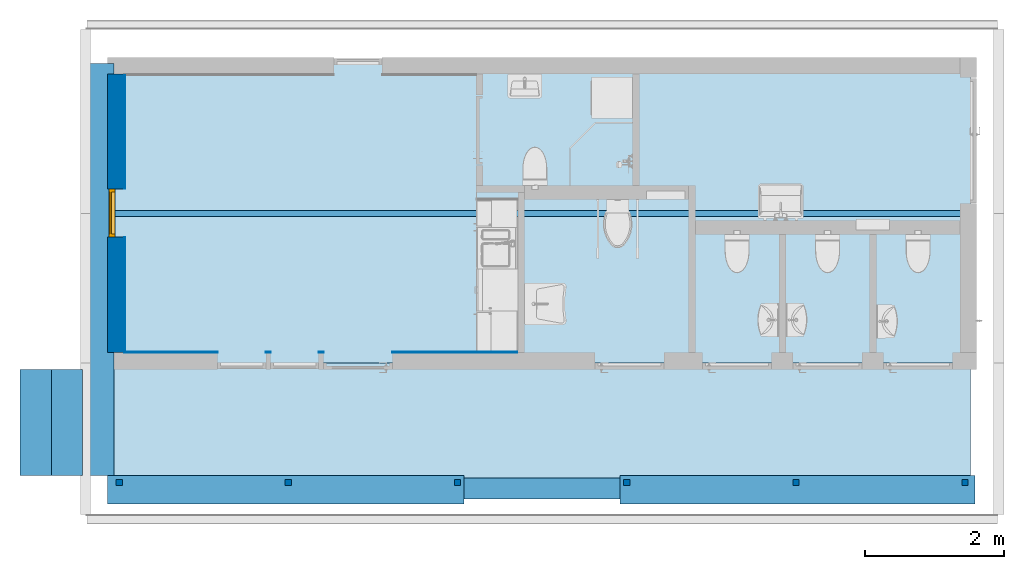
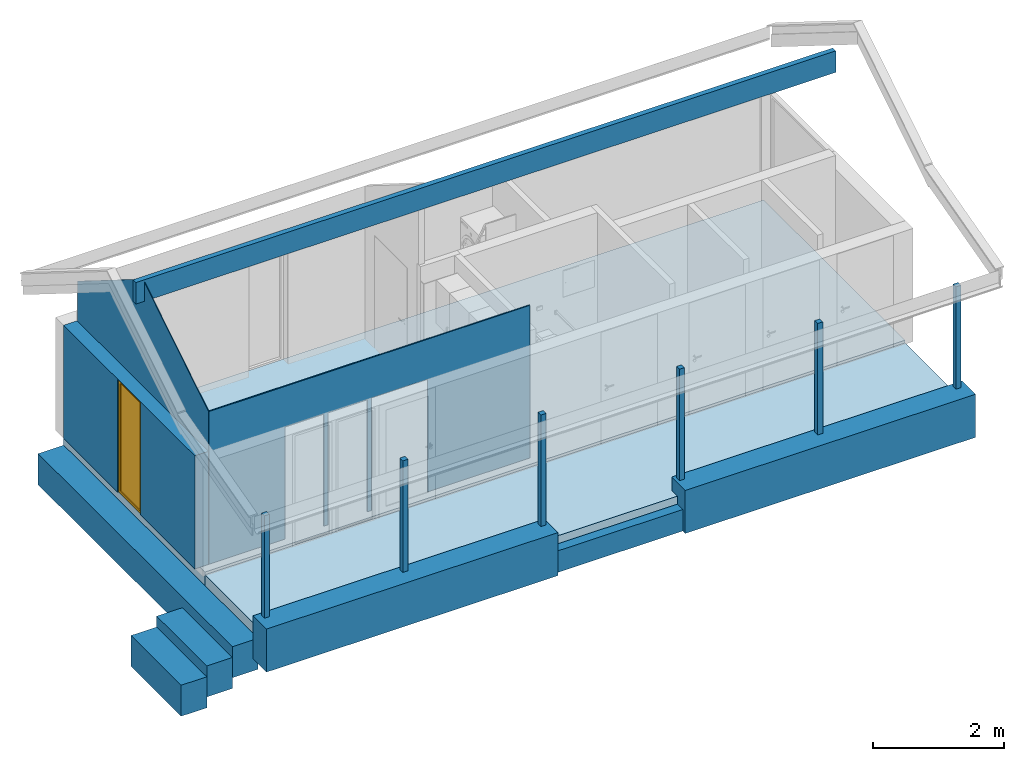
# One storey, part 1 of 15: 7 slabs, 6 columns, 4 walls, 1 beam, 1 window, 5 openings.
"""IFC2X3 building model written with IfcOpenShell, lengths in millimetres."""

from ifc_helpers import new_model, entity, si_unit, converted_unit, direction, frame, frame_2d, origin, origin_2d_with_axis, place, context, subcontext, project, spatial, polyline, rectangle, outline, extrude, clip, bounded_halfspace, faceted_brep, source, transform, mapped, material, material_list, layer, layer_set, layer_usage, type_object, type_shapes, element, fill, save


model = new_model("IFC2X3")

# Units and contexts
model_context = context("Model", 3, precision=0.01, world=origin(), true_north=direction((0.0, 1.0)))
body_context = subcontext(model_context, "Body", "Model", "MODEL_VIEW")
ifc_project = project(units=[si_unit("LENGTHUNIT", "METRE", prefix="MILLI"), si_unit("AREAUNIT", "SQUARE_METRE"), si_unit("VOLUMEUNIT", "CUBIC_METRE"), converted_unit("PLANEANGLEUNIT", "DEGREE", entity("IfcPlaneAngleMeasure", 0.017453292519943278), si_unit("PLANEANGLEUNIT", "RADIAN"), dimensions=[0, 0, 0, 0, 0, 0, 0])], contexts=[model_context])

# Site, building, storey
site_placement = place(None, origin())
site = spatial("IfcSite", under=ifc_project, at=site_placement, Name="Default", CompositionType="ELEMENT")
building_placement = place(site_placement, origin())
building = spatial("IfcBuilding", under=site, at=building_placement, CompositionType="ELEMENT")
storey_placement = place(building_placement, origin())
storey = spatial("IfcBuildingStorey", under=building, at=storey_placement, Name="Et. 1", CompositionType="ELEMENT", Elevation=0.0)

# Columns
ifc_material_1 = material(Name="Maling mørkegrå(1)")
column_type_1 = type_object("IfcColumnType", Name="Betong Rektangulær-Søyle:90x90", PredefinedType="COLUMN", material=ifc_material_1)
shared_shape_1 = source(origin(), body_context, "Body", "SweptSolid", [
    extrude(rectangle(XDim=89.99999999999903, YDim=89.99999999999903, at=frame_2d((1.0835776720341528e-12, -1.0835776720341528e-12), x_axis=(1.0, 0.0))), frame((11475.567419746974, 9988.190261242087, 200.0), z_axis=(0.0, 0.0, 1.0), x_axis=(-1.0, 0.0, 0.0)), (0.0, 0.0, 1.0), 1900.0000000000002),
])
type_shapes(column_type_1, [shared_shape_1])
column_1_placement = place(storey_placement, origin())
element("IfcColumn", 1, at=column_1_placement, inside=storey, type_object=column_type_1, material=ifc_material_1, Name="Betong Rektangulær-Søyle:90x90", context=body_context, shape_type="MappedRepresentation", body=[
    mapped(shared_shape_1, transform((0.0, 0.0, 0.0), scale=1.0)),
])
column_type_2 = type_object("IfcColumnType", Name="Betong Rektangulær-Søyle:90x90", PredefinedType="COLUMN", material=ifc_material_1)
shared_shape_2 = source(origin(), body_context, "Body", "SweptSolid", [
    extrude(rectangle(XDim=90.0000000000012, YDim=89.99999999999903, at=frame_2d((2.1671553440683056e-12, -1.0835776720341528e-12), x_axis=(1.0, 0.0))), frame((23625.567419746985, 9988.190261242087, 200.0), z_axis=(0.0, 0.0, 1.0), x_axis=(-1.0, 0.0, 0.0)), (0.0, 0.0, 1.0), 1900.0000000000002),
])
type_shapes(column_type_2, [shared_shape_2])
column_2_placement = place(storey_placement, origin())
element("IfcColumn", 2, at=column_2_placement, inside=storey, type_object=column_type_2, material=ifc_material_1, Name="Betong Rektangulær-Søyle:90x90", context=body_context, shape_type="MappedRepresentation", body=[
    mapped(shared_shape_2, transform((0.0, 0.0, 0.0), scale=1.0)),
])
column_type_3 = type_object("IfcColumnType", Name="Betong Rektangulær-Søyle:90x90", PredefinedType="COLUMN", material=ifc_material_1)
shared_shape_3 = source(origin(), body_context, "Body", "SweptSolid", [
    extrude(rectangle(XDim=90.0000000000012, YDim=89.99999999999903, at=frame_2d((2.1671553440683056e-12, -1.0835776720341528e-12), x_axis=(1.0, 0.0))), frame((21195.56741974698, 9988.190261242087, 200.0), z_axis=(0.0, 0.0, 1.0), x_axis=(-1.0, 0.0, 0.0)), (0.0, 0.0, 1.0), 2071.1989148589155),
])
type_shapes(column_type_3, [shared_shape_3])
column_3_placement = place(storey_placement, origin())
element("IfcColumn", 3, at=column_3_placement, inside=storey, type_object=column_type_3, material=ifc_material_1, Name="Betong Rektangulær-Søyle:90x90", context=body_context, shape_type="MappedRepresentation", body=[
    mapped(shared_shape_3, transform((0.0, 0.0, 0.0), scale=1.0)),
])
column_type_4 = type_object("IfcColumnType", Name="Betong Rektangulær-Søyle:90x90", PredefinedType="COLUMN", material=ifc_material_1)
shared_shape_4 = source(origin(), body_context, "Body", "SweptSolid", [
    extrude(rectangle(XDim=89.99999999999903, YDim=89.99999999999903, at=frame_2d((1.0835776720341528e-12, -1.0835776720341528e-12), x_axis=(1.0, 0.0))), frame((13905.567419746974, 9988.190261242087, 200.0), z_axis=(0.0, 0.0, 1.0), x_axis=(-1.0, 0.0, 0.0)), (0.0, 0.0, 1.0), 2071.1989148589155),
])
type_shapes(column_type_4, [shared_shape_4])
column_4_placement = place(storey_placement, origin())
element("IfcColumn", 4, at=column_4_placement, inside=storey, type_object=column_type_4, material=ifc_material_1, Name="Betong Rektangulær-Søyle:90x90", context=body_context, shape_type="MappedRepresentation", body=[
    mapped(shared_shape_4, transform((0.0, 0.0, 0.0), scale=1.0)),
])
column_type_5 = type_object("IfcColumnType", Name="Betong Rektangulær-Søyle:90x90", PredefinedType="COLUMN", material=ifc_material_1)
shared_shape_5 = source(origin(), body_context, "Body", "SweptSolid", [
    extrude(rectangle(XDim=89.99999999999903, YDim=89.99999999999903, at=frame_2d((1.0835776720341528e-12, -1.0835776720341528e-12), x_axis=(1.0, 0.0))), frame((18765.567419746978, 9988.190261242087, 200.0), z_axis=(0.0, 0.0, 1.0), x_axis=(-1.0, 0.0, 0.0)), (0.0, 0.0, 1.0), 2071.1989148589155),
])
type_shapes(column_type_5, [shared_shape_5])
column_5_placement = place(storey_placement, origin())
element("IfcColumn", 5, at=column_5_placement, inside=storey, type_object=column_type_5, material=ifc_material_1, Name="Betong Rektangulær-Søyle:90x90", context=body_context, shape_type="MappedRepresentation", body=[
    mapped(shared_shape_5, transform((0.0, 0.0, 0.0), scale=1.0)),
])
column_type_6 = type_object("IfcColumnType", Name="Betong Rektangulær-Søyle:90x90", PredefinedType="COLUMN", material=ifc_material_1)
shared_shape_6 = source(origin(), body_context, "Body", "SweptSolid", [
    extrude(rectangle(XDim=89.99999999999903, YDim=89.99999999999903, at=frame_2d((1.0835776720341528e-12, -1.0835776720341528e-12), x_axis=(1.0, 0.0))), frame((16335.567419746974, 9988.190261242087, 200.0), z_axis=(0.0, 0.0, 1.0), x_axis=(-1.0, 0.0, 0.0)), (0.0, 0.0, 1.0), 2071.1989148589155),
])
type_shapes(column_type_6, [shared_shape_6])
column_6_placement = place(storey_placement, origin())
element("IfcColumn", 6, at=column_6_placement, inside=storey, type_object=column_type_6, material=ifc_material_1, Name="Betong Rektangulær-Søyle:90x90", context=body_context, shape_type="MappedRepresentation", body=[
    mapped(shared_shape_6, transform((0.0, 0.0, 0.0), scale=1.0)),
])

# Beam
ifc_material_2 = material(Name="Tre - Kirsebær")
beam_type = type_object("IfcBeamType", Name="Betong Rektangulær:Mønedrager 90x400", PredefinedType="BEAM")
beam_placement = place(storey_placement, frame((11400.567419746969, 13853.190261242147, 4100.0)))
element("IfcBeam", 7, at=beam_placement, inside=storey, type_object=beam_type, material=ifc_material_2, Name="Betong Rektangulær:Mønedrager 90x400", context=body_context, shape_type="SweptSolid", body=[
    extrude(rectangle(XDim=400.0, YDim=90.00000000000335, at=frame_2d((0.0, 1.0835776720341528e-12), x_axis=(1.0, 0.0))), frame((0.0, 0.0, -200.0), z_axis=(1.0, 0.0, 0.0), x_axis=(0.0, 0.0, -1.0)), (0.0, 0.0, 1.0), 12300.000000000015),
])

# Slabs
ifc_material_3 = material(Name="Dekke - Spon")
ifc_layer_1 = layer(ifc_material_3, 22.0)
ifc_material_4 = material(Name="Dekke - Betong - Plasstøpt - Ubehandlet")
ifc_layer_2 = layer(ifc_material_4, 50.0)
ifc_material_5 = material(Name="Dekke - Hard - Isolasjon")
ifc_layer_3 = layer(ifc_material_5, 200.0)
ifc_material_6 = material(Name="Betong Plasstøpt - B30")
ifc_layer_4 = layer(ifc_material_6, 100.0)
ifc_layer_set_1 = layer_set([ifc_layer_1, ifc_layer_2, ifc_layer_3, ifc_layer_4], Name="Floor:25-Gulv på grunn SpBIhGr-22_50_200_100")
ifc_layer_usage_1 = layer_usage(ifc_layer_set_1, "AXIS3", "POSITIVE", 0.0)
slab_type_1 = type_object("IfcSlabType", Name="Floor:25-Gulv på grunn SpBIhGr-22_50_200_100", PredefinedType="FLOOR", material=ifc_layer_set_1)
slab_1_placement = place(storey_placement, origin())
element("IfcSlab", 8, at=slab_1_placement, inside=storey, type_object=slab_type_1, material=ifc_layer_usage_1, Name="Floor:25-Gulv på grunn SpBIhGr-22_50_200_100", PredefinedType="FLOOR", context=body_context, shape_type="SweptSolid", body=[
    extrude(rectangle(XDim=4300.000000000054, YDim=12300.000000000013, at=frame_2d((-2.2737367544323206e-12, -9.094947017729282e-13), x_axis=(1.0, 0.0))), frame((17550.567419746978, 13853.19026124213, 0.0), z_axis=(0.0, 0.0, -1.0), x_axis=(0.0, 1.0, 0.0)), (0.0, 0.0, 1.0), 372.00000000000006),
])
ifc_material_7 = material(Name="Dekke - Terrassebord")
ifc_material_8 = material(Name="Dekke - Terrassebord(1)")
ifc_material_list_1 = material_list([ifc_material_7, ifc_material_8])
slab_type_2 = type_object("IfcSlabType", Name="Floor:25-TbTU-22_148 2", PredefinedType="FLOOR")
slab_2_placement = place(storey_placement, origin())
element("IfcSlab", 9, at=slab_2_placement, inside=storey, type_object=slab_type_2, material=ifc_material_list_1, Name="Floor:25-TbTU-22_148 2", PredefinedType="FLOOR", context=body_context, shape_type="Brep", body=[
    faceted_brep([(11400.567419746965, 9916.049468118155, -626.0), (11400.567419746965, 11703.19026124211, -626.0), (23700.56741974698, 11703.19026124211, -626.0), (23700.56741974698, 9916.049468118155, -626.0), (11400.567419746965, 11703.19026124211, -50.0), (11400.567419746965, 9916.049468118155, -50.0), (18670.567419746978, 9916.049468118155, -50.0), (18670.567419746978, 10088.190261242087, -50.0), (23700.56741974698, 10088.190261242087, -50.0), (23700.56741974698, 11703.19026124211, -50.0), (23700.56741974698, 10088.190261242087, -600.0), (23700.56741974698, 9916.049468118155, -600.0), (18670.567419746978, 9916.049468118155, -600.0), (18670.567419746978, 10088.190261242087, -600.0)], [[[0, 1, 2, 3]], [[4, 5, 6, 7, 8, 9]], [[1, 0, 5, 4]], [[2, 1, 4, 9]], [[3, 2, 9, 8, 10, 11]], [[0, 3, 11, 12, 6, 5]], [[13, 12, 11, 10]], [[13, 10, 8, 7]], [[12, 13, 7, 6]]]),
])
ifc_material_9 = material(Name="Vegg - Naturstein 2")
ifc_layer_5 = layer(ifc_material_9, 800.0)
ifc_layer_set_2 = layer_set([ifc_layer_5], Name="Floor:Steinbenk 2")
ifc_layer_usage_2 = layer_usage(ifc_layer_set_2, "AXIS3", "POSITIVE", 0.0)
slab_type_3 = type_object("IfcSlabType", Name="Floor:Steinbenk 2", PredefinedType="FLOOR", material=ifc_layer_set_2)
slab_3_placement = place(storey_placement, origin())
element("IfcSlab", 10, at=slab_3_placement, inside=storey, type_object=slab_type_3, material=ifc_layer_usage_2, Name="Floor:Steinbenk 2", PredefinedType="FLOOR", context=body_context, shape_type="SweptSolid", body=[
    extrude(rectangle(XDim=409.9999999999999, YDim=5100.0, at=frame_2d((-1.0942358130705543e-12, 1.1368683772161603e-12), x_axis=(1.0, 0.0))), frame((21220.567419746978, 9883.190261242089, 200.0), z_axis=(0.0, 0.0, -1.0), x_axis=(0.0, 1.0, 0.0)), (0.0, 0.0, 1.0), 800.0),
])
ifc_layer_usage_3 = layer_usage(ifc_layer_set_2, "AXIS3", "POSITIVE", 0.0)
slab_4_placement = place(storey_placement, origin())
element("IfcSlab", 11, at=slab_4_placement, inside=storey, type_object=slab_type_3, material=ifc_layer_usage_3, Name="Floor:Steinbenk 2", PredefinedType="FLOOR", context=body_context, shape_type="SweptSolid", body=[
    extrude(rectangle(XDim=409.9999999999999, YDim=5120.000000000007, at=frame_2d((-1.0942358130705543e-12, -1.1368683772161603e-12), x_axis=(1.0, 0.0))), frame((13870.56741974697, 9883.190261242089, 200.0), z_axis=(0.0, 0.0, -1.0), x_axis=(0.0, 1.0, 0.0)), (0.0, 0.0, 1.0), 800.0),
])
ifc_layer_6 = layer(ifc_material_9, 28.0)
ifc_layer_7 = layer(ifc_material_9, 548.0)
ifc_layer_set_3 = layer_set([ifc_layer_6, ifc_layer_7], Name="Floor:Steinbenk")
ifc_layer_usage_4 = layer_usage(ifc_layer_set_3, "AXIS3", "POSITIVE", 0.0)
slab_type_4 = type_object("IfcSlabType", Name="Floor:Steinbenk", PredefinedType="FLOOR", material=ifc_layer_set_3)
slab_5_placement = place(storey_placement, origin())
element("IfcSlab", 12, at=slab_5_placement, inside=storey, type_object=slab_type_4, material=ifc_layer_usage_4, Name="Floor:Steinbenk", PredefinedType="FLOOR", context=body_context, shape_type="SweptSolid", body=[
    extrude(rectangle(XDim=5915.0000000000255, YDim=449.9999999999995, at=frame_2d((-1.1368683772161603e-12, 1.0800249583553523e-12), x_axis=(1.0, 0.0))), frame((11175.567419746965, 13045.690261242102, -250.0), z_axis=(0.0, 0.0, -1.0), x_axis=(0.0, 1.0, 0.0)), (0.0, 0.0, 1.0), 576.0000000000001),
])
ifc_layer_usage_5 = layer_usage(ifc_layer_set_3, "AXIS3", "POSITIVE", 0.0)
slab_6_placement = place(storey_placement, origin())
element("IfcSlab", 13, at=slab_6_placement, inside=storey, type_object=slab_type_4, material=ifc_layer_usage_5, Name="Floor:Steinbenk", PredefinedType="FLOOR", context=body_context, shape_type="SweptSolid", body=[
    extrude(rectangle(XDim=1525.0000000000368, YDim=449.9999999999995, at=frame_2d((-1.0800249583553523e-12, 1.0800249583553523e-12), x_axis=(1.0, 0.0))), frame((10725.567419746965, 10850.690261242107, -450.0), z_axis=(0.0, 0.0, -1.0), x_axis=(0.0, 1.0, 0.0)), (0.0, 0.0, 1.0), 576.0000000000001),
])
ifc_layer_usage_6 = layer_usage(ifc_layer_set_3, "AXIS3", "POSITIVE", 0.0)
slab_7_placement = place(storey_placement, origin())
element("IfcSlab", 14, at=slab_7_placement, inside=storey, type_object=slab_type_4, material=ifc_layer_usage_6, Name="Floor:Steinbenk", PredefinedType="FLOOR", context=body_context, shape_type="SweptSolid", body=[
    extrude(rectangle(XDim=1525.0000000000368, YDim=449.9999999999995, at=frame_2d((1.0800249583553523e-12, 1.0800249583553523e-12), x_axis=(1.0, 0.0))), frame((10275.567419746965, 10850.690261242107, -650.0), z_axis=(0.0, 0.0, -1.0), x_axis=(0.0, 1.0, 0.0)), (0.0, 0.0, 1.0), 576.0000000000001),
])

# Wall, opening, window
ifc_material_10 = material(Name="Vegg - Dobbelfals Stående Kledning - Mørkegrå")
ifc_layer_8 = layer(ifc_material_10, 19.0)
ifc_material_11 = material(Name="Default Floor")
ifc_layer_9 = layer(ifc_material_11, 36.0)
ifc_layer_10 = layer(ifc_material_11, 23.0)
ifc_layer_11 = layer(ifc_material_11, 12.0)
ifc_material_12 = material(Name="Vegg - Stender - Isolert")
ifc_layer_12 = layer(ifc_material_12, 150.0)
ifc_layer_set_4 = layer_set([ifc_layer_8, ifc_layer_9, ifc_layer_10, ifc_layer_11, ifc_layer_12], Name="Basic Wall:Yttervegg stående kl")
ifc_layer_usage_7 = layer_usage(ifc_layer_set_4, "AXIS2", "POSITIVE", -120.00000000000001)
wall_type_1 = type_object("IfcWallType", Name="Basic Wall:Yttervegg stående kl", PredefinedType="STANDARD", material=ifc_layer_set_4)
wall_1_placement = place(storey_placement, frame((11430.567419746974, 15853.190261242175, 0.0), z_axis=(0.0, 0.0, 1.0), x_axis=(0.0, -1.0, 0.0)))
wall_1 = element("IfcWallStandardCase", 15, at=wall_1_placement, inside=storey, type_object=wall_type_1, material=ifc_layer_usage_7, Name="Basic Wall:Yttervegg stående kl", context=body_context, shape_type="SweptSolid", body=[
    extrude(rectangle(XDim=4000.0000000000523, YDim=240.00000000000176, at=frame_2d((2000.0000000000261, -2.984279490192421e-13), x_axis=(-1.0, 0.0))), origin(), (0.0, 0.0, 1.0), 2100.0),
])
opening_1_placement = place(wall_1_placement, frame((2339.0, 120.0, 0.0)))
opening_1 = element("IfcOpeningElement", 16, at=opening_1_placement, cuts=wall_1, Name="Hel Rute fast:7x21M:1", ObjectType="Opening", context=body_context, shape_type="SweptSolid", body=[
    extrude(rectangle(XDim=690.0000000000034, YDim=2090.000000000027, at=frame_2d((1045.0000000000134, 345.0000000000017), x_axis=(0.0, -1.0))), frame((0.0, 0.0, 0.0), z_axis=(0.0, -1.0, 0.0), x_axis=(0.0, 0.0, 1.0)), (0.0, 0.0, 1.0), 240.00000000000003),
])
ifc_material_13 = material(Name="Focus - Glass - Klart")
ifc_material_14 = material(Name="Maling mørkegrå")
ifc_material_list_2 = material_list([ifc_material_13, ifc_material_14])
window_style = type_object("IfcWindowStyle", Name="Hel Rute fast:7x21M", ConstructionType="NOTDEFINED", OperationType="NOTDEFINED", ParameterTakesPrecedence=False, Sizeable=False, material=ifc_material_list_2)
shared_shape_7 = source(origin(), body_context, "Body", "SweptSolid", [
    extrude(rectangle(XDim=25.0, YDim=610.0000000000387, at=origin_2d_with_axis()), frame((345.0, 195.0, 40.0), z_axis=(0.0, 0.0, 1.0), x_axis=(0.0, 1.0, 0.0)), (0.0, 0.0, 1.0), 2009.9999999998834),
    extrude(outline(polyline([(-1045.0, -345.0), (1045.0, -345.0), (1045.0, 345.0), (-1045.0, 345.0), (-1045.0, -345.0)]), holes=[polyline([(1005.0, -305.0), (-1005.0, -305.0), (-1005.0, 305.0), (1005.0, 305.0), (1005.0, -305.0)])]), frame((345.0, 133.0, 1045.0), z_axis=(0.0, 1.0, 0.0), x_axis=(0.0, 0.0, -1.0)), (0.0, 0.0, 1.0), 91.99999999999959),
])
type_shapes(window_style, [shared_shape_7])
window_placement = place(opening_1_placement, frame((0.0, 0.0, 0.0), z_axis=(0.0, 0.0, 1.0), x_axis=(-1.0, 0.0, 0.0)))
window = element("IfcWindow", 17, at=window_placement, inside=storey, type_object=window_style, material=ifc_material_list_2, Name="Hel Rute fast:7x21M", OverallHeight=2090.000000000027, OverallWidth=690.0000000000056, context=body_context, shape_type="MappedRepresentation", body=[
    mapped(shared_shape_7, transform((0.0, 0.0, 0.0), scale=1.0)),
])
fill(opening_1, window)

# Wall
ifc_material_15 = material(Name="Vegg - Betong - Element - Ubehandlet")
ifc_layer_13 = layer(ifc_material_15, 300.0)
ifc_layer_set_5 = layer_set([ifc_layer_13], Name="Basic Wall:Betongsåle")
ifc_layer_usage_8 = layer_usage(ifc_layer_set_5, "AXIS2", "NEGATIVE", 150.0)
wall_type_2 = type_object("IfcWallType", Name="Basic Wall:Betongsåle", PredefinedType="STANDARD", material=ifc_layer_set_5)
wall_2_placement = place(storey_placement, frame((11424.567419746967, 9903.190261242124, -600.0)))
element("IfcWallStandardCase", 18, at=wall_2_placement, inside=storey, type_object=wall_type_2, material=ifc_layer_usage_8, Name="Basic Wall:Betongsåle", context=body_context, shape_type="SweptSolid", body=[
    extrude(rectangle(XDim=7246.000000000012, YDim=299.9999999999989, at=origin_2d_with_axis()), frame((3623.0, 0.0, 0.0)), (0.0, 0.0, 1.0), 400.0),
])

# Wall, openings
ifc_layer_14 = layer(ifc_material_2, 12.0)
ifc_layer_set_6 = layer_set([ifc_layer_14], Name="Basic Wall:Finer")
ifc_layer_usage_9 = layer_usage(ifc_layer_set_6, "AXIS2", "NEGATIVE", 5.999999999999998)
wall_type_3 = type_object("IfcWallType", Name="Basic Wall:Finer", PredefinedType="STANDARD", material=ifc_layer_set_6)
wall_3_placement = place(storey_placement, frame((11550.567419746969, 11859.190261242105, 0.0)))
wall_3 = element("IfcWallStandardCase", 19, at=wall_3_placement, inside=storey, type_object=wall_type_3, material=ifc_layer_usage_9, Name="Basic Wall:Finer", context=body_context, shape_type="Clipping", body=[
    clip(extrude(rectangle(XDim=5644.000000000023, YDim=11.999999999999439, at=frame_2d((2822.0000000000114, 9.920952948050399e-13), x_axis=(1.0, 0.0))), origin(), (0.0, 0.0, 1.0), 2842.4670766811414), bounded_halfspace(frame((0.0, -6.0, 2834.9686444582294), z_axis=(0.0, -0.5299192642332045, 0.8480480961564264), x_axis=(1.0, 0.0, 0.0)), False, frame((0.0, -6.0, 2834.9686444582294)), polyline([(0.0, 0.0), (5644.0, 0.0), (5644.0, 12.0), (0.0, 12.0), (0.0, 0.0)]))),
])
opening_2_placement = place(wall_3_placement, origin())
element("IfcOpeningElement", 20, at=opening_2_placement, cuts=wall_3, Name="Basic Wall:Finer", ObjectType="Opening", context=body_context, shape_type="SweptSolid", body=[
    extrude(rectangle(XDim=2090.0000000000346, YDim=990.0000000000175, at=frame_2d((0.0, 0.0), x_axis=(0.0, 1.0))), frame((3355.0, -1530.0, 1045.0), z_axis=(0.0, 1.0, 0.0), x_axis=(-1.0, 0.0, 0.0)), (0.0, 0.0, 1.0), 3048.0),
])
opening_3_placement = place(wall_3_placement, origin())
element("IfcOpeningElement", 21, at=opening_3_placement, cuts=wall_3, Name="Basic Wall:Finer", ObjectType="Opening", context=body_context, shape_type="SweptSolid", body=[
    extrude(rectangle(XDim=2090.000000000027, YDim=690.0000000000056, at=frame_2d((-1.0800249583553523e-12, 0.0), x_axis=(0.0, 1.0))), frame((2445.0, -1530.0, 1035.0), z_axis=(0.0, 1.0, 0.0), x_axis=(1.0, 0.0, 0.0)), (0.0, 0.0, 1.0), 3048.0),
])
opening_4_placement = place(wall_3_placement, origin())
element("IfcOpeningElement", 22, at=opening_4_placement, cuts=wall_3, Name="Basic Wall:Finer", ObjectType="Opening", context=body_context, shape_type="SweptSolid", body=[
    extrude(rectangle(XDim=2090.000000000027, YDim=690.0000000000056, at=frame_2d((-1.0800249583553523e-12, 0.0), x_axis=(0.0, 1.0))), frame((1685.0, -1530.0, 1035.0), z_axis=(0.0, 1.0, 0.0), x_axis=(1.0, 0.0, 0.0)), (0.0, 0.0, 1.0), 3048.0),
])

# Wall, opening
ifc_layer_usage_10 = layer_usage(ifc_layer_set_6, "AXIS2", "NEGATIVE", 5.999999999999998)
wall_4_placement = place(storey_placement, frame((11556.567419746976, 15841.190261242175, 0.0), z_axis=(0.0, 0.0, 1.0), x_axis=(0.0, -1.0, 0.0)))
wall_4 = element("IfcWallStandardCase", 23, at=wall_4_placement, inside=storey, type_object=wall_type_3, material=ifc_layer_usage_10, Name="Basic Wall:Finer", context=body_context, shape_type="Clipping", body=[
    clip(clip(extrude(rectangle(XDim=3988.0000000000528, YDim=12.000000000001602, at=frame_2d((1994.0000000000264, -9.769962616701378e-15), x_axis=(-1.0, 0.0))), origin(), (0.0, 0.0, 1.0), 4084.7073482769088), bounded_halfspace(frame((0.0, 6.0, 2842.46707668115), z_axis=(-0.5299192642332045, 0.0, 0.8480480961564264), x_axis=(0.0, -1.0, 0.0)), False, frame((0.0, 6.0, 2842.46707668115)), polyline([(0.0, 0.0), (0.0, -12.0), (1988.0, -12.0), (1988.0, 0.0), (0.0, 0.0)]))), bounded_halfspace(frame((3988.0, -6.0, 2834.9686444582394), z_axis=(0.5299192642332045, 0.0, 0.8480480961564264), x_axis=(0.0, 1.0, 0.0)), False, frame((3988.0, -6.0, 2834.9686444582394)), polyline([(0.0, 0.0), (0.0, 12.0), (-2000.0, 12.0), (-2000.0, 0.0), (0.0, 0.0)]))),
])
opening_5_placement = place(wall_4_placement, origin())
element("IfcOpeningElement", 24, at=opening_5_placement, cuts=wall_4, Name="Basic Wall:Finer", ObjectType="Opening", context=body_context, shape_type="SweptSolid", body=[
    extrude(rectangle(XDim=2090.000000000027, YDim=690.0000000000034, at=frame_2d((0.0, 0.0), x_axis=(0.0, 1.0))), frame((1982.0, -1530.0, 1045.0), z_axis=(0.0, 1.0, 0.0), x_axis=(1.0, 0.0, 0.0)), (0.0, 0.0, 1.0), 3048.0),
])

save(model, "model.ifc")
